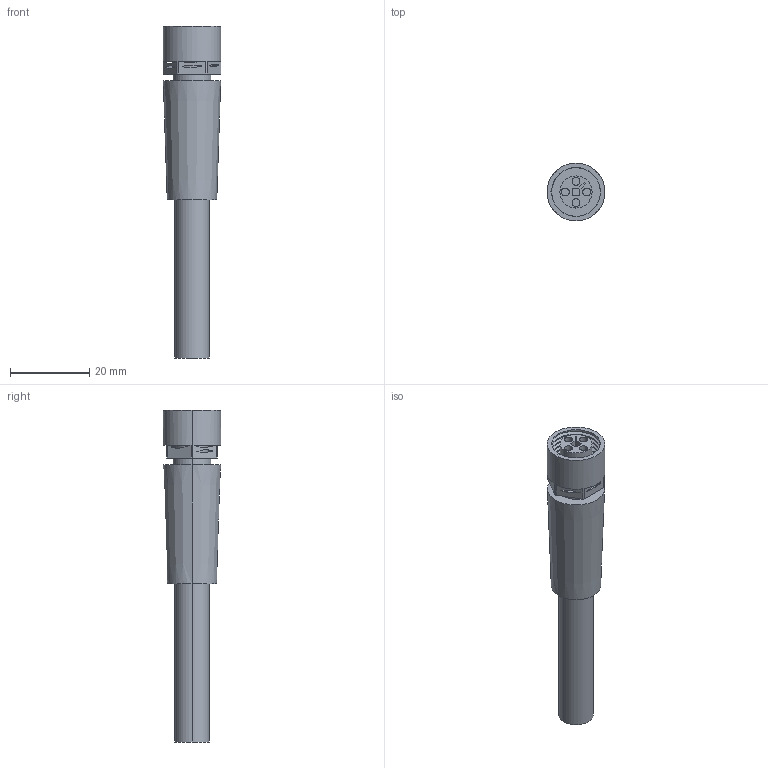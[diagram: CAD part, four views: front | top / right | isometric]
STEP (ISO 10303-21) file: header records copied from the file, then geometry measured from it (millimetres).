
FILE_DESCRIPTION (( 'STEP AP214' ), '1' );
FILE_NAME ('BKT4B02.STEP', '2025-05-08T06:55:03', ( '' ), ( '' ), 'SwSTEP 2.0', 'SolidWorks 2022', '' );
FILE_SCHEMA (( 'AUTOMOTIVE_DESIGN' ));
Length unit declared in the file: millimetre
Products named in the file (1): BKT4B02
Bounding box: 14.6 x 14.6 x 83.82 mm (x, y, z)
Volume: 7705.5 mm3; surface area: 4863.4 mm2
Topology: 1 solids, 1 shells, 79 faces, 229 edges, 151 vertices
Faces by surface type: cylinder 34, plane 33, bspline 10, cone 2
Entity records: 5619 total; most frequent: CARTESIAN_POINT 3688, ORIENTED_EDGE 458, DIRECTION 336, EDGE_CURVE 229, VERTEX_POINT 151, AXIS2_PLACEMENT_3D 122, EDGE_LOOP 96, LINE 92
